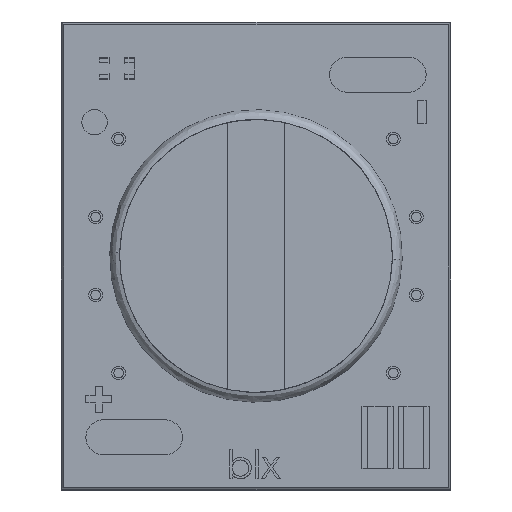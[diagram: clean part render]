
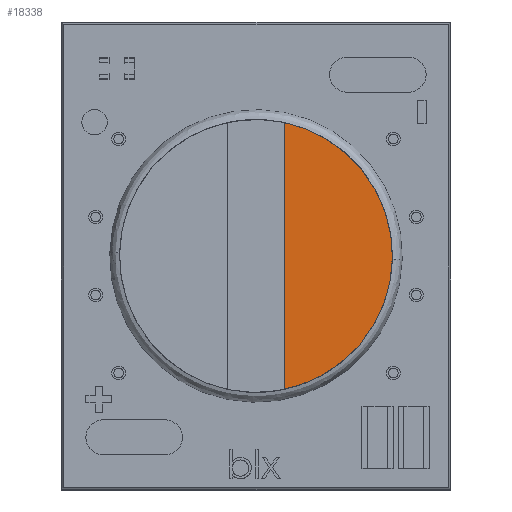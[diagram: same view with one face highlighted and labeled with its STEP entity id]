
A CAD part, top view. The second image highlights one B-rep face of the part: STEP entity #18338.
In plain terms, the highlighted planar face has unit normal (0, 0, 1).
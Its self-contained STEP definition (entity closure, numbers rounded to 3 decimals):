
#2324 = VECTOR ( 'NONE', #10596, 1000. ) ;
#2358 = CARTESIAN_POINT ( 'NONE',  ( 0., 0., 0.6 ) ) ;
#5051 = AXIS2_PLACEMENT_3D ( 'NONE', #2358, #11323, #12844 ) ;
#6411 = CARTESIAN_POINT ( 'NONE',  ( 0., 0., 0.6 ) ) ;
#7129 = LINE ( 'NONE', #10831, #2324 ) ;
#7314 = EDGE_CURVE ( 'NONE', #11828, #18102, #7129, .T. ) ;
#8445 = VERTEX_POINT ( 'NONE', #17174 ) ;
#8457 = AXIS2_PLACEMENT_3D ( 'NONE', #6411, #20977, #10311 ) ;
#10004 = PLANE ( 'NONE',  #8457 ) ;
#10311 = DIRECTION ( 'NONE',  ( 1., 0., 0. ) ) ;
#10470 = CARTESIAN_POINT ( 'NONE',  ( 0., 0., 0.6 ) ) ;
#10596 = DIRECTION ( 'NONE',  ( 0., 1., 0. ) ) ;
#10831 = CARTESIAN_POINT ( 'NONE',  ( 1.453, 6.848, 0.6 ) ) ;
#11323 = DIRECTION ( 'NONE',  ( 0., 0., 1. ) ) ;
#11588 = ORIENTED_EDGE ( 'NONE', *, *, #18434, .T. ) ;
#11828 = VERTEX_POINT ( 'NONE', #20135 ) ;
#12844 = DIRECTION ( 'NONE',  ( 1., 0., 0. ) ) ;
#13758 = AXIS2_PLACEMENT_3D ( 'NONE', #10470, #19696, #14192 ) ;
#13783 = CIRCLE ( 'NONE', #13758, 7. ) ;
#14192 = DIRECTION ( 'NONE',  ( 1., 0., 0. ) ) ;
#15209 = CIRCLE ( 'NONE', #5051, 7. ) ;
#17174 = CARTESIAN_POINT ( 'NONE',  ( 7., 0., 0.6 ) ) ;
#17466 = ORIENTED_EDGE ( 'NONE', *, *, #7314, .F. ) ;
#18102 = VERTEX_POINT ( 'NONE', #19528 ) ;
#18338 = ADVANCED_FACE ( 'NONE', ( #22503 ), #10004, .T. ) ;
#18434 = EDGE_CURVE ( 'NONE', #8445, #18102, #13783, .T. ) ;
#18680 = ORIENTED_EDGE ( 'NONE', *, *, #21520, .T. ) ;
#18701 = EDGE_LOOP ( 'NONE', ( #17466, #18680, #11588 ) ) ;
#19528 = CARTESIAN_POINT ( 'NONE',  ( 1.453, 6.848, 0.6 ) ) ;
#19696 = DIRECTION ( 'NONE',  ( 0., 0., 1. ) ) ;
#20135 = CARTESIAN_POINT ( 'NONE',  ( 1.453, -6.848, 0.6 ) ) ;
#20977 = DIRECTION ( 'NONE',  ( 0., 0., 1. ) ) ;
#21520 = EDGE_CURVE ( 'NONE', #11828, #8445, #15209, .T. ) ;
#22503 = FACE_OUTER_BOUND ( 'NONE', #18701, .T. ) ;
